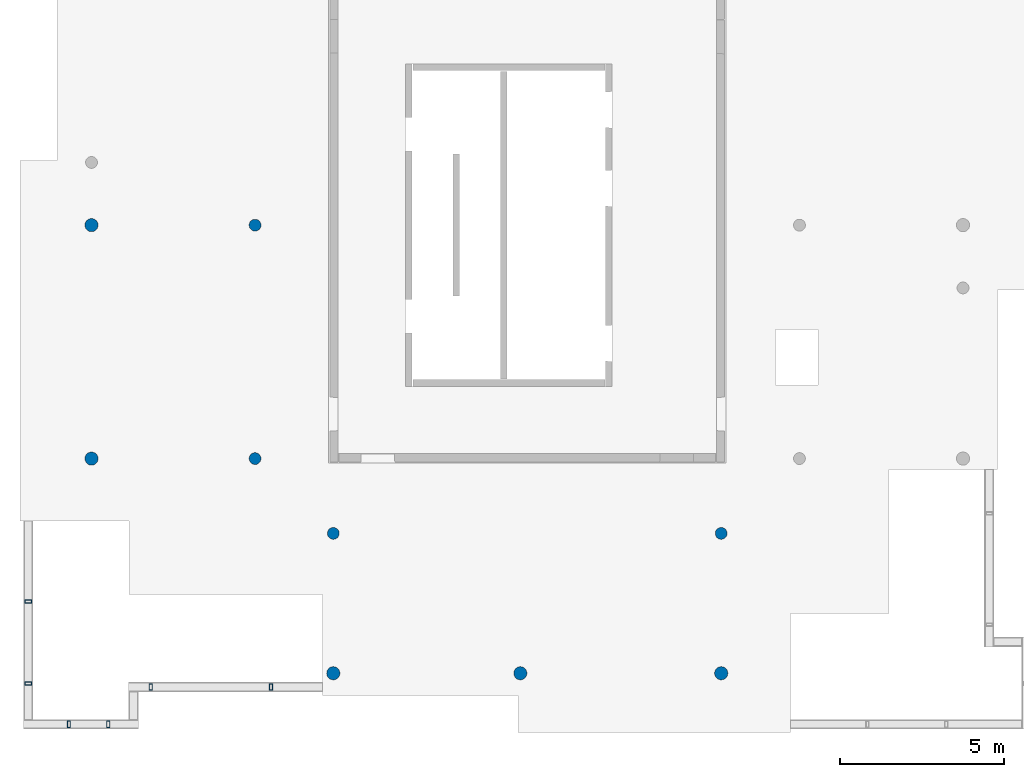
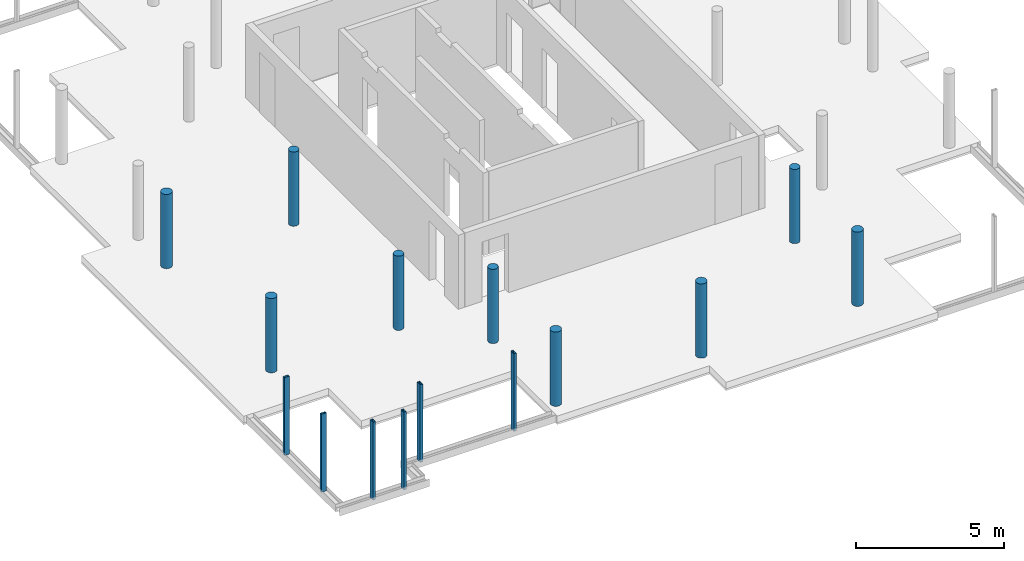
# One storey, part 1 of 7: 15 columns.
"""IFC2X3 building model written with IfcOpenShell, lengths in millimetres."""

from ifc_helpers import new_model, entity, si_unit, converted_unit, derived_unit, direction, frame, frame_2d, origin, origin_2d_with_axis, place, context, subcontext, project, spatial, polyline, circle_curve, parameter, trimmed, segment, composite_curve, circle, outline, extrude, source, transform, mapped, material, type_object, type_shapes, element, save


model = new_model("IFC2X3")

# Units and contexts
model_context = context("Model", 3, precision=0.01, world=origin(), true_north=direction((6.12303176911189e-17, 1.0)))
body_context = subcontext(model_context, "Body", "Model", "MODEL_VIEW")
ifc_project = project(units=[si_unit("LENGTHUNIT", "METRE", prefix="MILLI"), si_unit("AREAUNIT", "SQUARE_METRE"), si_unit("VOLUMEUNIT", "CUBIC_METRE"), converted_unit("PLANEANGLEUNIT", "DEGREE", entity("IfcRatioMeasure", 0.0174532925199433), si_unit("PLANEANGLEUNIT", "RADIAN"), dimensions=[0, 0, 0, 0, 0, 0, 0]), si_unit("MASSUNIT", "GRAM", prefix="KILO"), derived_unit("MASSDENSITYUNIT", [(si_unit("MASSUNIT", "GRAM", prefix="KILO"), 1), (si_unit("LENGTHUNIT", "METRE"), -3)]), si_unit("TIMEUNIT", "SECOND"), si_unit("FREQUENCYUNIT", "HERTZ"), si_unit("THERMODYNAMICTEMPERATUREUNIT", "DEGREE_CELSIUS"), derived_unit("THERMALTRANSMITTANCEUNIT", [(si_unit("MASSUNIT", "GRAM", prefix="KILO"), 1), (si_unit("THERMODYNAMICTEMPERATUREUNIT", "KELVIN"), -1), (si_unit("TIMEUNIT", "SECOND"), -3)]), derived_unit("VOLUMETRICFLOWRATEUNIT", [(si_unit("LENGTHUNIT", "METRE"), 3), (si_unit("TIMEUNIT", "SECOND"), -1)]), si_unit("ELECTRICCURRENTUNIT", "AMPERE"), si_unit("ELECTRICVOLTAGEUNIT", "VOLT"), si_unit("POWERUNIT", "WATT"), si_unit("FORCEUNIT", "NEWTON", prefix="KILO"), si_unit("ILLUMINANCEUNIT", "LUX"), si_unit("LUMINOUSFLUXUNIT", "LUMEN"), si_unit("LUMINOUSINTENSITYUNIT", "CANDELA"), derived_unit("USERDEFINED", [(si_unit("MASSUNIT", "GRAM", prefix="KILO"), -1), (si_unit("LENGTHUNIT", "METRE"), -2), (si_unit("TIMEUNIT", "SECOND"), 3), (si_unit("LUMINOUSFLUXUNIT", "LUMEN"), 1)]), derived_unit("LINEARVELOCITYUNIT", [(si_unit("LENGTHUNIT", "METRE"), 1), (si_unit("TIMEUNIT", "SECOND"), -1)]), si_unit("PRESSUREUNIT", "PASCAL"), derived_unit("USERDEFINED", [(si_unit("LENGTHUNIT", "METRE"), -2), (si_unit("MASSUNIT", "GRAM", prefix="KILO"), 1), (si_unit("TIMEUNIT", "SECOND"), -2)])], contexts=[model_context])

# Site, building, storey
site_placement = place(None, origin())
site = spatial("IfcSite", under=ifc_project, at=site_placement, Name="Default", CompositionType="ELEMENT")
building_placement = place(site_placement, origin())
building = spatial("IfcBuilding", under=site, at=building_placement, Name="niet gebruiken", CompositionType="ELEMENT")
storey_placement = place(building_placement, frame((0.0, 0.0, 168300.0)))
storey = spatial("IfcBuildingStorey", under=building, at=storey_placement, Name="54 vierenvijftigste verdieping", CompositionType="ELEMENT", Elevation=168300.0)

# Columns
ifc_material_1 = material(Name="NLRS_f2_beton prefab")
column_type_1 = type_object("IfcColumnType", Name="ø400", PredefinedType="COLUMN", material=ifc_material_1)
shared_shape_1 = source(origin(), body_context, "Body", "SweptSolid", [
    extrude(circle(Radius=199.999999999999, at=origin_2d_with_axis()), frame((128495.0, 17500.0, 168230.0), z_axis=(0.0, 0.0, 1.0), x_axis=(0.0, -1.0, 0.0)), (0.0, 0.0, 1.0), 3070.0),
])
type_shapes(column_type_1, [shared_shape_1])
column_1_placement = place(storey_placement, frame((0.0, 0.0, -168300.0)))
element("IfcColumn", 1, at=column_1_placement, inside=storey, type_object=column_type_1, material=ifc_material_1, Name="NLRS_28. kolom rond_gen:ø400", ObjectType="ø400", context=body_context, shape_type="MappedRepresentation", body=[
    mapped(shared_shape_1, transform((0.0, 0.0, 0.0), scale=1.0)),
])
column_type_2 = type_object("IfcColumnType", Name="ø360", PredefinedType="COLUMN", material=ifc_material_1)
shared_shape_2 = source(origin(), body_context, "Body", "SweptSolid", [
    extrude(circle(Radius=180.0, at=origin_2d_with_axis()), frame((133470.0, 17500.0, 168230.0), z_axis=(0.0, 0.0, 1.0), x_axis=(0.0, -1.0, 0.0)), (0.0, 0.0, 1.0), 3070.0),
])
type_shapes(column_type_2, [shared_shape_2])
column_2_placement = place(storey_placement, frame((0.0, 0.0, -168300.0)))
element("IfcColumn", 2, at=column_2_placement, inside=storey, type_object=column_type_2, material=ifc_material_1, Name="NLRS_28. kolom rond_gen:ø360", ObjectType="ø360", context=body_context, shape_type="MappedRepresentation", body=[
    mapped(shared_shape_2, transform((0.0, 0.0, 0.0), scale=1.0)),
])
column_type_3 = type_object("IfcColumnType", Name="ø400", PredefinedType="COLUMN", material=ifc_material_1)
shared_shape_3 = source(origin(), body_context, "Body", "SweptSolid", [
    extrude(circle(Radius=199.999999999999, at=frame_2d((-5.41433564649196e-13, 0.0), x_axis=(1.0, 0.0))), frame((147650.0, 3870.0, 168230.0), z_axis=(0.0, 0.0, 1.0), x_axis=(0.0, -1.0, 0.0)), (0.0, 0.0, 1.0), 3070.0),
])
type_shapes(column_type_3, [shared_shape_3])
column_3_placement = place(storey_placement, frame((0.0, 0.0, -168300.0)))
element("IfcColumn", 3, at=column_3_placement, inside=storey, type_object=column_type_3, material=ifc_material_1, Name="NLRS_28. kolom rond_gen:ø400", ObjectType="ø400", context=body_context, shape_type="MappedRepresentation", body=[
    mapped(shared_shape_3, transform((0.0, 0.0, 0.0), scale=1.0)),
])
column_type_4 = type_object("IfcColumnType", Name="ø360", PredefinedType="COLUMN", material=ifc_material_1)
shared_shape_4 = source(origin(), body_context, "Body", "SweptSolid", [
    extrude(circle(Radius=180.0, at=origin_2d_with_axis()), frame((147650.0, 8125.0, 168230.0), z_axis=(0.0, 0.0, 1.0), x_axis=(0.0, -1.0, 0.0)), (0.0, 0.0, 1.0), 3070.0),
])
type_shapes(column_type_4, [shared_shape_4])
column_4_placement = place(storey_placement, frame((0.0, 0.0, -168300.0)))
element("IfcColumn", 4, at=column_4_placement, inside=storey, type_object=column_type_4, material=ifc_material_1, Name="NLRS_28. kolom rond_gen:ø360", ObjectType="ø360", context=body_context, shape_type="MappedRepresentation", body=[
    mapped(shared_shape_4, transform((0.0, 0.0, 0.0), scale=1.0)),
])
column_type_5 = type_object("IfcColumnType", Name="ø400", PredefinedType="COLUMN", material=ifc_material_1)
shared_shape_5 = source(origin(), body_context, "Body", "SweptSolid", [
    extrude(circle(Radius=199.999999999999, at=frame_2d((-5.41433564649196e-13, 0.0), x_axis=(1.0, 0.0))), frame((141540.0, 3870.0, 168230.0), z_axis=(0.0, 0.0, 1.0), x_axis=(0.0, -1.0, 0.0)), (0.0, 0.0, 1.0), 3070.0),
])
type_shapes(column_type_5, [shared_shape_5])
column_5_placement = place(storey_placement, frame((0.0, 0.0, -168300.0)))
element("IfcColumn", 5, at=column_5_placement, inside=storey, type_object=column_type_5, material=ifc_material_1, Name="NLRS_28. kolom rond_gen:ø400", ObjectType="ø400", context=body_context, shape_type="MappedRepresentation", body=[
    mapped(shared_shape_5, transform((0.0, 0.0, 0.0), scale=1.0)),
])
column_type_6 = type_object("IfcColumnType", Name="ø360", PredefinedType="COLUMN", material=ifc_material_1)
shared_shape_6 = source(origin(), body_context, "Body", "SweptSolid", [
    extrude(circle(Radius=180.0, at=origin_2d_with_axis()), frame((135850.0, 8125.0, 168230.0), z_axis=(0.0, 0.0, 1.0), x_axis=(0.0, -1.0, 0.0)), (0.0, 0.0, 1.0), 3070.0),
])
type_shapes(column_type_6, [shared_shape_6])
column_6_placement = place(storey_placement, frame((0.0, 0.0, -168300.0)))
element("IfcColumn", 6, at=column_6_placement, inside=storey, type_object=column_type_6, material=ifc_material_1, Name="NLRS_28. kolom rond_gen:ø360", ObjectType="ø360", context=body_context, shape_type="MappedRepresentation", body=[
    mapped(shared_shape_6, transform((0.0, 0.0, 0.0), scale=1.0)),
])
column_type_7 = type_object("IfcColumnType", Name="ø400", PredefinedType="COLUMN", material=ifc_material_1)
shared_shape_7 = source(origin(), body_context, "Body", "SweptSolid", [
    extrude(circle(Radius=199.999999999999, at=frame_2d((-5.41433564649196e-13, 0.0), x_axis=(1.0, 0.0))), frame((135850.0, 3870.0, 168230.0), z_axis=(0.0, 0.0, 1.0), x_axis=(0.0, -1.0, 0.0)), (0.0, 0.0, 1.0), 3070.0),
])
type_shapes(column_type_7, [shared_shape_7])
column_7_placement = place(storey_placement, frame((0.0, 0.0, -168300.0)))
element("IfcColumn", 7, at=column_7_placement, inside=storey, type_object=column_type_7, material=ifc_material_1, Name="NLRS_28. kolom rond_gen:ø400", ObjectType="ø400", context=body_context, shape_type="MappedRepresentation", body=[
    mapped(shared_shape_7, transform((0.0, 0.0, 0.0), scale=1.0)),
])
column_type_8 = type_object("IfcColumnType", Name="ø360", PredefinedType="COLUMN", material=ifc_material_1)
shared_shape_8 = source(origin(), body_context, "Body", "SweptSolid", [
    extrude(circle(Radius=180.0, at=origin_2d_with_axis()), frame((133470.0, 10400.0, 168230.0), z_axis=(0.0, 0.0, 1.0), x_axis=(0.0, -1.0, 0.0)), (0.0, 0.0, 1.0), 3070.0),
])
type_shapes(column_type_8, [shared_shape_8])
column_8_placement = place(storey_placement, frame((0.0, 0.0, -168300.0)))
element("IfcColumn", 8, at=column_8_placement, inside=storey, type_object=column_type_8, material=ifc_material_1, Name="NLRS_28. kolom rond_gen:ø360", ObjectType="ø360", context=body_context, shape_type="MappedRepresentation", body=[
    mapped(shared_shape_8, transform((0.0, 0.0, 0.0), scale=1.0)),
])
column_type_9 = type_object("IfcColumnType", Name="ø400", PredefinedType="COLUMN", material=ifc_material_1)
shared_shape_9 = source(origin(), body_context, "Body", "SweptSolid", [
    extrude(circle(Radius=199.999999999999, at=origin_2d_with_axis()), frame((128495.0, 10400.0, 168230.0), z_axis=(0.0, 0.0, 1.0), x_axis=(0.0, -1.0, 0.0)), (0.0, 0.0, 1.0), 3070.0),
])
type_shapes(column_type_9, [shared_shape_9])
column_9_placement = place(storey_placement, frame((0.0, 0.0, -168300.0)))
element("IfcColumn", 9, at=column_9_placement, inside=storey, type_object=column_type_9, material=ifc_material_1, Name="NLRS_28. kolom rond_gen:ø400", ObjectType="ø400", context=body_context, shape_type="MappedRepresentation", body=[
    mapped(shared_shape_9, transform((0.0, 0.0, 0.0), scale=1.0)),
])
ifc_material_2 = material(Name="NLRS_h2_staal")
column_type_10 = type_object("IfcColumnType", Name="kolom buisprofiel rechthoekig RHSH_200x100x10", PredefinedType="COLUMN", material=ifc_material_2)
shared_shape_10 = source(origin(), body_context, "Body", "SweptSolid", [
    extrude(outline(polyline([(-100.0, -50.0), (100.0, -50.0), (100.0, 50.0), (-100.0, 50.0), (-100.0, -50.0)]), holes=[composite_curve([segment(trimmed(circle_curve(frame_2d((-80.0, -30.0), x_axis=(0.0, 1.0)), 10.0), [parameter(90.0000000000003)], [parameter(180.0)], True, "PARAMETER"), False, "CONTINUOUS"), segment(polyline([(-90.0, -30.0), (-90.0, 30.0)]), True, "CONTINUOUS"), segment(trimmed(circle_curve(frame_2d((-80.0, 30.0), x_axis=(0.0, 1.0)), 10.0), [parameter(360.0)], [parameter(89.9999999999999)], True, "PARAMETER"), False, "CONTINUOUS"), segment(polyline([(-80.0, 40.0), (80.0, 40.0)]), True, "CONTINUOUS"), segment(trimmed(circle_curve(frame_2d((80.0, 30.0), x_axis=(0.0, 1.0)), 10.0), [parameter(270.0)], [parameter(360.0)], True, "PARAMETER"), False, "CONTINUOUS"), segment(polyline([(90.0, 30.0), (90.0, -30.0)]), True, "CONTINUOUS"), segment(trimmed(circle_curve(frame_2d((80.0, -30.0), x_axis=(0.0, 1.0)), 10.0), [parameter(180.0)], [parameter(270.0)], True, "PARAMETER"), False, "CONTINUOUS"), segment(polyline([(80.0, -40.0), (-80.0, -40.0)]), True, "CONTINUOUS")], self_intersect=False)]), frame((127805.0, 2320.0, 168040.5), z_axis=(0.0, 0.0, 1.0), x_axis=(0.0, -1.0, 0.0)), (0.0, 0.0, 1.0), 3219.50000000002),
])
type_shapes(column_type_10, [shared_shape_10])
column_10_placement = place(storey_placement, frame((0.0, 0.0, -168300.0)))
element("IfcColumn", 10, at=column_10_placement, inside=storey, type_object=column_type_10, material=ifc_material_2, Name="NLRS_28.11_SCO_TLB_stalen kolom buisprofiel rechthoekig_gen:kolom buisprofiel rechthoekig RHSH_200x100x10", ObjectType="kolom buisprofiel rechthoekig RHSH_200x100x10", context=body_context, shape_type="MappedRepresentation", body=[
    mapped(shared_shape_10, transform((0.0, 0.0, 0.0), scale=1.0)),
])
column_type_11 = type_object("IfcColumnType", Name="kolom buisprofiel rechthoekig RHSH_200x100x10", PredefinedType="COLUMN", material=ifc_material_2)
shared_shape_11 = source(origin(), body_context, "Body", "SweptSolid", [
    extrude(outline(polyline([(-100.0, -50.0), (100.0, -50.0), (100.0, 50.0), (-100.0, 50.0), (-100.0, -50.0)]), holes=[composite_curve([segment(trimmed(circle_curve(frame_2d((-80.0, -30.0), x_axis=(0.0, 1.0)), 10.0), [parameter(90.0000000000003)], [parameter(180.0)], True, "PARAMETER"), False, "CONTINUOUS"), segment(polyline([(-90.0, -30.0), (-90.0, 30.0)]), True, "CONTINUOUS"), segment(trimmed(circle_curve(frame_2d((-80.0, 30.0), x_axis=(0.0, 1.0)), 10.0), [parameter(360.0)], [parameter(89.9999999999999)], True, "PARAMETER"), False, "CONTINUOUS"), segment(polyline([(-80.0, 40.0), (80.0, 40.0)]), True, "CONTINUOUS"), segment(trimmed(circle_curve(frame_2d((80.0, 30.0), x_axis=(0.0, 1.0)), 10.0), [parameter(270.0)], [parameter(360.0)], True, "PARAMETER"), False, "CONTINUOUS"), segment(polyline([(90.0, 30.0), (90.0, -30.0)]), True, "CONTINUOUS"), segment(trimmed(circle_curve(frame_2d((80.0, -30.0), x_axis=(0.0, 1.0)), 10.0), [parameter(180.0)], [parameter(270.0)], True, "PARAMETER"), False, "CONTINUOUS"), segment(polyline([(80.0, -40.0), (-80.0, -40.0)]), True, "CONTINUOUS")], self_intersect=False)]), frame((129005.0, 2320.0, 168040.5), z_axis=(0.0, 0.0, 1.0), x_axis=(0.0, -1.0, 0.0)), (0.0, 0.0, 1.0), 3219.50000000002),
])
type_shapes(column_type_11, [shared_shape_11])
column_11_placement = place(storey_placement, frame((0.0, 0.0, -168300.0)))
element("IfcColumn", 11, at=column_11_placement, inside=storey, type_object=column_type_11, material=ifc_material_2, Name="NLRS_28.11_SCO_TLB_stalen kolom buisprofiel rechthoekig_gen:kolom buisprofiel rechthoekig RHSH_200x100x10", ObjectType="kolom buisprofiel rechthoekig RHSH_200x100x10", context=body_context, shape_type="MappedRepresentation", body=[
    mapped(shared_shape_11, transform((0.0, 0.0, 0.0), scale=1.0)),
])
column_type_12 = type_object("IfcColumnType", Name="kolom buisprofiel rechthoekig RHSH_200x100x10", PredefinedType="COLUMN", material=ifc_material_2)
shared_shape_12 = source(origin(), body_context, "Body", "SweptSolid", [
    extrude(outline(polyline([(-100.0, -50.0), (100.0, -50.0), (100.0, 50.0), (-100.0, 50.0), (-100.0, -50.0)]), holes=[composite_curve([segment(trimmed(circle_curve(frame_2d((-80.0, -30.0), x_axis=(0.0, 1.0)), 10.0), [parameter(90.0000000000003)], [parameter(180.0)], True, "PARAMETER"), False, "CONTINUOUS"), segment(polyline([(-90.0, -30.0), (-90.0, 30.0)]), True, "CONTINUOUS"), segment(trimmed(circle_curve(frame_2d((-80.0, 30.0), x_axis=(0.0, 1.0)), 10.0), [parameter(360.0)], [parameter(89.9999999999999)], True, "PARAMETER"), False, "CONTINUOUS"), segment(polyline([(-80.0, 40.0), (80.0, 40.0)]), True, "CONTINUOUS"), segment(trimmed(circle_curve(frame_2d((80.0, 30.0), x_axis=(0.0, 1.0)), 10.0), [parameter(270.0)], [parameter(360.0)], True, "PARAMETER"), False, "CONTINUOUS"), segment(polyline([(90.0, 30.0), (90.0, -30.0)]), True, "CONTINUOUS"), segment(trimmed(circle_curve(frame_2d((80.0, -30.0), x_axis=(0.0, 1.0)), 10.0), [parameter(180.0)], [parameter(270.0)], True, "PARAMETER"), False, "CONTINUOUS"), segment(polyline([(80.0, -40.0), (-80.0, -40.0)]), True, "CONTINUOUS")], self_intersect=False)]), frame((126570.0, 3555.0, 168040.5), z_axis=(0.0, 0.0, 1.0), x_axis=(-1.0, 0.0, 0.0)), (0.0, 0.0, 1.0), 3219.50000000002),
])
type_shapes(column_type_12, [shared_shape_12])
column_12_placement = place(storey_placement, frame((0.0, 0.0, -168300.0)))
element("IfcColumn", 12, at=column_12_placement, inside=storey, type_object=column_type_12, material=ifc_material_2, Name="NLRS_28.11_SCO_TLB_stalen kolom buisprofiel rechthoekig_gen:kolom buisprofiel rechthoekig RHSH_200x100x10", ObjectType="kolom buisprofiel rechthoekig RHSH_200x100x10", context=body_context, shape_type="MappedRepresentation", body=[
    mapped(shared_shape_12, transform((0.0, 0.0, 0.0), scale=1.0)),
])
column_type_13 = type_object("IfcColumnType", Name="kolom buisprofiel rechthoekig RHSH_200x100x10", PredefinedType="COLUMN", material=ifc_material_2)
shared_shape_13 = source(origin(), body_context, "Body", "SweptSolid", [
    extrude(outline(polyline([(-100.0, -50.0), (100.0, -50.0), (100.0, 50.0), (-100.0, 50.0), (-100.0, -50.0)]), holes=[composite_curve([segment(trimmed(circle_curve(frame_2d((-80.0, -30.0), x_axis=(0.0, 1.0)), 10.0), [parameter(90.0000000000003)], [parameter(180.0)], True, "PARAMETER"), False, "CONTINUOUS"), segment(polyline([(-90.0, -30.0), (-90.0, 30.0)]), True, "CONTINUOUS"), segment(trimmed(circle_curve(frame_2d((-80.0, 30.0), x_axis=(0.0, 1.0)), 10.0), [parameter(360.0)], [parameter(89.9999999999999)], True, "PARAMETER"), False, "CONTINUOUS"), segment(polyline([(-80.0, 40.0), (80.0, 40.0)]), True, "CONTINUOUS"), segment(trimmed(circle_curve(frame_2d((80.0, 30.0), x_axis=(0.0, 1.0)), 10.0), [parameter(270.0)], [parameter(360.0)], True, "PARAMETER"), False, "CONTINUOUS"), segment(polyline([(90.0, 30.0), (90.0, -30.0)]), True, "CONTINUOUS"), segment(trimmed(circle_curve(frame_2d((80.0, -30.0), x_axis=(0.0, 1.0)), 10.0), [parameter(180.0)], [parameter(270.0)], True, "PARAMETER"), False, "CONTINUOUS"), segment(polyline([(80.0, -40.0), (-80.0, -40.0)]), True, "CONTINUOUS")], self_intersect=False)]), frame((126570.0, 6055.0, 168040.5), z_axis=(0.0, 0.0, 1.0), x_axis=(-1.0, 0.0, 0.0)), (0.0, 0.0, 1.0), 3219.50000000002),
])
type_shapes(column_type_13, [shared_shape_13])
column_13_placement = place(storey_placement, frame((0.0, 0.0, -168300.0)))
element("IfcColumn", 13, at=column_13_placement, inside=storey, type_object=column_type_13, material=ifc_material_2, Name="NLRS_28.11_SCO_TLB_stalen kolom buisprofiel rechthoekig_gen:kolom buisprofiel rechthoekig RHSH_200x100x10", ObjectType="kolom buisprofiel rechthoekig RHSH_200x100x10", context=body_context, shape_type="MappedRepresentation", body=[
    mapped(shared_shape_13, transform((0.0, 0.0, 0.0), scale=1.0)),
])
column_type_14 = type_object("IfcColumnType", Name="kolom buisprofiel rechthoekig RHSH_200x100x10", PredefinedType="COLUMN", material=ifc_material_2)
shared_shape_14 = source(origin(), body_context, "Body", "SweptSolid", [
    extrude(outline(polyline([(-100.0, -50.0), (100.0, -50.0), (100.0, 50.0), (-100.0, 50.0), (-100.0, -50.0)]), holes=[composite_curve([segment(trimmed(circle_curve(frame_2d((-80.0, -30.0), x_axis=(0.0, 1.0)), 10.0), [parameter(90.0000000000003)], [parameter(180.0)], True, "PARAMETER"), False, "CONTINUOUS"), segment(polyline([(-90.0, -30.0), (-90.0, 30.0)]), True, "CONTINUOUS"), segment(trimmed(circle_curve(frame_2d((-80.0, 30.0), x_axis=(0.0, 1.0)), 10.0), [parameter(360.0)], [parameter(89.9999999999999)], True, "PARAMETER"), False, "CONTINUOUS"), segment(polyline([(-80.0, 40.0), (80.0, 40.0)]), True, "CONTINUOUS"), segment(trimmed(circle_curve(frame_2d((80.0, 30.0), x_axis=(0.0, 1.0)), 10.0), [parameter(270.0)], [parameter(360.0)], True, "PARAMETER"), False, "CONTINUOUS"), segment(polyline([(90.0, 30.0), (90.0, -30.0)]), True, "CONTINUOUS"), segment(trimmed(circle_curve(frame_2d((80.0, -30.0), x_axis=(0.0, 1.0)), 10.0), [parameter(180.0)], [parameter(270.0)], True, "PARAMETER"), False, "CONTINUOUS"), segment(polyline([(80.0, -40.0), (-80.0, -40.0)]), True, "CONTINUOUS")], self_intersect=False)]), frame((130298.0, 3451.00145776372, 168040.5), z_axis=(0.0, 0.0, 1.0), x_axis=(0.0, -1.0, 0.0)), (0.0, 0.0, 1.0), 3219.50000000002),
])
type_shapes(column_type_14, [shared_shape_14])
column_14_placement = place(storey_placement, frame((0.0, 0.0, -168300.0)))
element("IfcColumn", 14, at=column_14_placement, inside=storey, type_object=column_type_14, material=ifc_material_2, Name="NLRS_28.11_SCO_TLB_stalen kolom buisprofiel rechthoekig_gen:kolom buisprofiel rechthoekig RHSH_200x100x10", ObjectType="kolom buisprofiel rechthoekig RHSH_200x100x10", context=body_context, shape_type="MappedRepresentation", body=[
    mapped(shared_shape_14, transform((0.0, 0.0, 0.0), scale=1.0)),
])
column_type_15 = type_object("IfcColumnType", Name="kolom buisprofiel rechthoekig RHSH_200x100x10", PredefinedType="COLUMN", material=ifc_material_2)
shared_shape_15 = source(origin(), body_context, "Body", "SweptSolid", [
    extrude(outline(polyline([(-100.0, -50.0), (100.0, -50.0), (100.0, 50.0), (-100.0, 50.0), (-100.0, -50.0)]), holes=[composite_curve([segment(trimmed(circle_curve(frame_2d((-80.0, -30.0), x_axis=(0.0, 1.0)), 10.0), [parameter(90.0000000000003)], [parameter(180.0)], True, "PARAMETER"), False, "CONTINUOUS"), segment(polyline([(-90.0, -30.0), (-90.0, 30.0)]), True, "CONTINUOUS"), segment(trimmed(circle_curve(frame_2d((-80.0, 30.0), x_axis=(0.0, 1.0)), 10.0), [parameter(360.0)], [parameter(89.9999999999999)], True, "PARAMETER"), False, "CONTINUOUS"), segment(polyline([(-80.0, 40.0), (80.0, 40.0)]), True, "CONTINUOUS"), segment(trimmed(circle_curve(frame_2d((80.0, 30.0), x_axis=(0.0, 1.0)), 10.0), [parameter(270.0)], [parameter(360.0)], True, "PARAMETER"), False, "CONTINUOUS"), segment(polyline([(90.0, 30.0), (90.0, -30.0)]), True, "CONTINUOUS"), segment(trimmed(circle_curve(frame_2d((80.0, -30.0), x_axis=(0.0, 1.0)), 10.0), [parameter(180.0)], [parameter(270.0)], True, "PARAMETER"), False, "CONTINUOUS"), segment(polyline([(80.0, -40.0), (-80.0, -40.0)]), True, "CONTINUOUS")], self_intersect=False)]), frame((133958.0, 3451.0, 168040.5), z_axis=(0.0, 0.0, 1.0), x_axis=(0.0, -1.0, 0.0)), (0.0, 0.0, 1.0), 3219.50000000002),
])
type_shapes(column_type_15, [shared_shape_15])
column_15_placement = place(storey_placement, frame((0.0, 0.0, -168300.0)))
element("IfcColumn", 15, at=column_15_placement, inside=storey, type_object=column_type_15, material=ifc_material_2, Name="NLRS_28.11_SCO_TLB_stalen kolom buisprofiel rechthoekig_gen:kolom buisprofiel rechthoekig RHSH_200x100x10", ObjectType="kolom buisprofiel rechthoekig RHSH_200x100x10", context=body_context, shape_type="MappedRepresentation", body=[
    mapped(shared_shape_15, transform((0.0, 0.0, 0.0), scale=1.0)),
])

save(model, "model.ifc")
